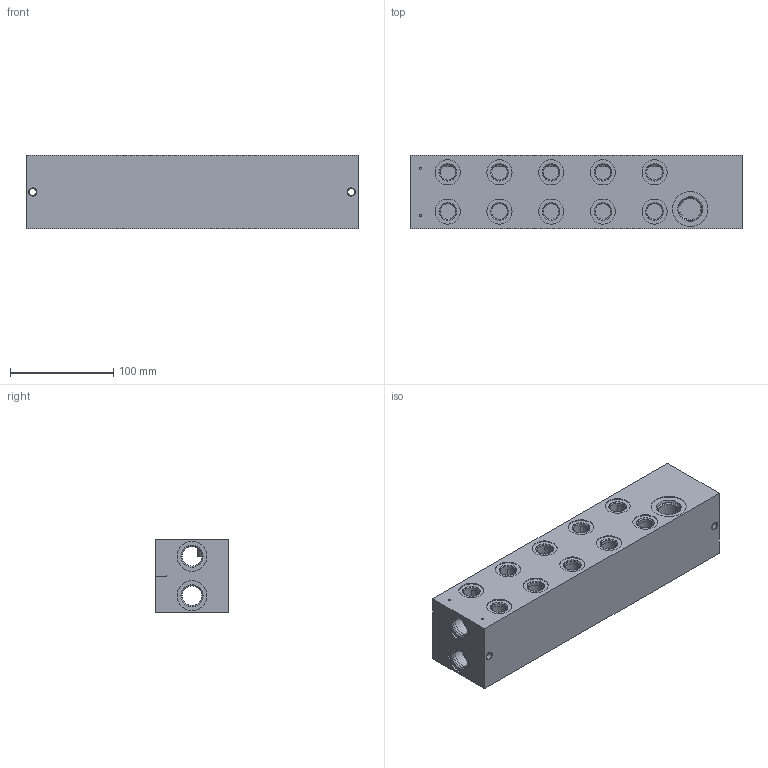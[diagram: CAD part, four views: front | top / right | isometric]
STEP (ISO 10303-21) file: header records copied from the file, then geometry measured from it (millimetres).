
FILE_DESCRIPTION((''),'2;1');
FILE_NAME('27563900','2015-11-27T',('Ahcz.brigadnik05'),(''),'PRO/ENGINEER BY PARAMETRIC TECHNOLOGY CORPORATION, 2015110','PRO/ENGINEER BY PARAMETRIC TECHNOLOGY CORPORATION, 2015110','');
FILE_SCHEMA(('AUTOMOTIVE_DESIGN { 1 0 10303 214 1 1 1 1 }'));
Length unit declared in the file: millimetre
Products named in the file (1): 27563900
Bounding box: 321 x 71 x 71 mm (x, y, z)
Volume: 532910.2 mm3; surface area: 203693.2 mm2
Topology: 1 solids, 43 shells, 369 faces, 1414 edges, 1382 vertices
Faces by surface type: cylinder 250, plane 74, cone 45
Entity records: 20777 total; most frequent: CARTESIAN_POINT 4142, DIRECTION 2659, ORIENTED_EDGE 1832, PRESENTATION_STYLE_ASSIGNMENT 1500, STYLED_ITEM 1500, CURVE_STYLE 1451, EDGE_CURVE 1000, AXIS2_PLACEMENT_3D 952
